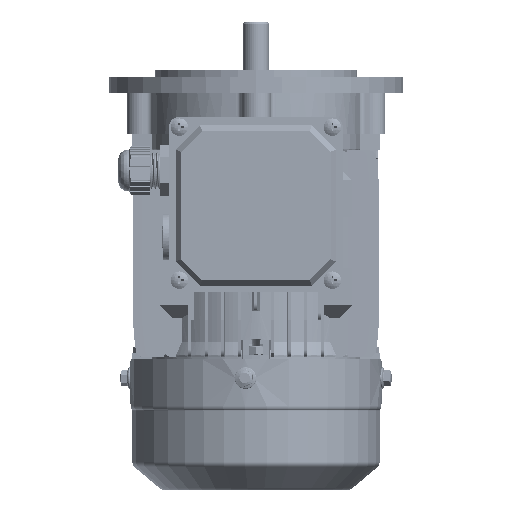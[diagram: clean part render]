
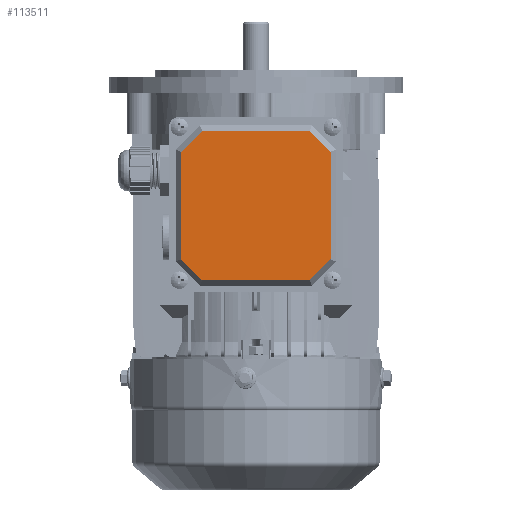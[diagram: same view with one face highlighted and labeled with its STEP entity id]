
A CAD part, left-side view. The second image highlights one B-rep face of the part: STEP entity #113511.
In plain terms, the highlighted planar face has unit normal (-1, 0, 0) as drawn and (0, 1, 0) by its records, which use the part's own axes.
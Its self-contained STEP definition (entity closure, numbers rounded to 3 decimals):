
#122 = VECTOR ( 'NONE', #10892, 1000. ) ;
#4140 = LINE ( 'NONE', #49739, #117571 ) ;
#7776 = CARTESIAN_POINT ( 'NONE',  ( -40.5, 6., 29.15 ) ) ;
#10784 = EDGE_CURVE ( 'NONE', #131015, #55515, #119590, .T. ) ;
#10892 = DIRECTION ( 'NONE',  ( -0.707, 0., 0.707 ) ) ;
#11312 = CARTESIAN_POINT ( 'NONE',  ( -40.5, 6., -29.15 ) ) ;
#13024 = ORIENTED_EDGE ( 'NONE', *, *, #23481, .T. ) ;
#14116 = AXIS2_PLACEMENT_3D ( 'NONE', #48377, #120814, #58793 ) ;
#17447 = CARTESIAN_POINT ( 'NONE',  ( 40.5, 6., 0. ) ) ;
#19912 = VERTEX_POINT ( 'NONE', #7776 ) ;
#21022 = FACE_OUTER_BOUND ( 'NONE', #93811, .T. ) ;
#23481 = EDGE_CURVE ( 'NONE', #19912, #33834, #106680, .T. ) ;
#27676 = LINE ( 'NONE', #124506, #122 ) ;
#33493 = CARTESIAN_POINT ( 'NONE',  ( 34.825, 6., 34.825 ) ) ;
#33834 = VERTEX_POINT ( 'NONE', #83441 ) ;
#34983 = EDGE_CURVE ( 'NONE', #124451, #19912, #67164, .T. ) ;
#35720 = VERTEX_POINT ( 'NONE', #66799 ) ;
#37726 = EDGE_CURVE ( 'NONE', #109099, #124451, #27676, .T. ) ;
#39855 = VECTOR ( 'NONE', #67672, 1000. ) ;
#40189 = VECTOR ( 'NONE', #89838, 1000. ) ;
#40809 = LINE ( 'NONE', #33493, #92593 ) ;
#40818 = CARTESIAN_POINT ( 'NONE',  ( -34.825, 6., 34.825 ) ) ;
#43928 = DIRECTION ( 'NONE',  ( 0.707, 0., -0.707 ) ) ;
#45677 = LINE ( 'NONE', #79766, #100666 ) ;
#48190 = CARTESIAN_POINT ( 'NONE',  ( 29.15, 6., -40.5 ) ) ;
#48377 = CARTESIAN_POINT ( 'NONE',  ( 0., 6., 0. ) ) ;
#49739 = CARTESIAN_POINT ( 'NONE',  ( 0., 6., 40.5 ) ) ;
#50703 = CARTESIAN_POINT ( 'NONE',  ( 40.5, 6., 29.15 ) ) ;
#55515 = VERTEX_POINT ( 'NONE', #71843 ) ;
#58793 = DIRECTION ( 'NONE',  ( 0., 0., -1. ) ) ;
#62099 = EDGE_CURVE ( 'NONE', #35720, #131015, #40809, .T. ) ;
#64315 = DIRECTION ( 'NONE',  ( 0., 0., 1. ) ) ;
#66799 = CARTESIAN_POINT ( 'NONE',  ( 29.15, 6., 40.5 ) ) ;
#67164 = LINE ( 'NONE', #105976, #91444 ) ;
#67409 = LINE ( 'NONE', #119317, #39855 ) ;
#67672 = DIRECTION ( 'NONE',  ( -1., 0., 0. ) ) ;
#67686 = ORIENTED_EDGE ( 'NONE', *, *, #34983, .T. ) ;
#69346 = DIRECTION ( 'NONE',  ( -0.707, 0., -0.707 ) ) ;
#71843 = CARTESIAN_POINT ( 'NONE',  ( 40.5, 6., -29.15 ) ) ;
#79766 = CARTESIAN_POINT ( 'NONE',  ( 34.825, 6., -34.825 ) ) ;
#83441 = CARTESIAN_POINT ( 'NONE',  ( -29.15, 6., 40.5 ) ) ;
#88591 = VERTEX_POINT ( 'NONE', #48190 ) ;
#89838 = DIRECTION ( 'NONE',  ( 0., 0., -1. ) ) ;
#90310 = ORIENTED_EDGE ( 'NONE', *, *, #117087, .T. ) ;
#91444 = VECTOR ( 'NONE', #64315, 1000. ) ;
#92383 = DIRECTION ( 'NONE',  ( 0.707, 0., 0.707 ) ) ;
#92593 = VECTOR ( 'NONE', #43928, 1000. ) ;
#93811 = EDGE_LOOP ( 'NONE', ( #97510, #108754, #131806, #90310, #133112, #67686, #13024, #112133 ) ) ;
#95398 = CARTESIAN_POINT ( 'NONE',  ( -29.15, 6., -40.5 ) ) ;
#97510 = ORIENTED_EDGE ( 'NONE', *, *, #62099, .T. ) ;
#99603 = EDGE_CURVE ( 'NONE', #33834, #35720, #4140, .T. ) ;
#99965 = PLANE ( 'NONE',  #14116 ) ;
#100666 = VECTOR ( 'NONE', #69346, 1000. ) ;
#105976 = CARTESIAN_POINT ( 'NONE',  ( -40.5, 6., 0. ) ) ;
#106680 = LINE ( 'NONE', #40818, #113145 ) ;
#108754 = ORIENTED_EDGE ( 'NONE', *, *, #10784, .T. ) ;
#109099 = VERTEX_POINT ( 'NONE', #95398 ) ;
#112133 = ORIENTED_EDGE ( 'NONE', *, *, #99603, .T. ) ;
#113145 = VECTOR ( 'NONE', #92383, 1000. ) ;
#113511 = ADVANCED_FACE ( 'NONE', ( #21022 ), #99965, .F. ) ;
#117087 = EDGE_CURVE ( 'NONE', #88591, #109099, #67409, .T. ) ;
#117571 = VECTOR ( 'NONE', #122205, 1000. ) ;
#119317 = CARTESIAN_POINT ( 'NONE',  ( 0., 6., -40.5 ) ) ;
#119590 = LINE ( 'NONE', #17447, #40189 ) ;
#120814 = DIRECTION ( 'NONE',  ( 0., -1., 0. ) ) ;
#122205 = DIRECTION ( 'NONE',  ( 1., 0., 0. ) ) ;
#124451 = VERTEX_POINT ( 'NONE', #11312 ) ;
#124506 = CARTESIAN_POINT ( 'NONE',  ( -34.825, 6., -34.825 ) ) ;
#131015 = VERTEX_POINT ( 'NONE', #50703 ) ;
#131806 = ORIENTED_EDGE ( 'NONE', *, *, #133721, .T. ) ;
#133112 = ORIENTED_EDGE ( 'NONE', *, *, #37726, .T. ) ;
#133721 = EDGE_CURVE ( 'NONE', #55515, #88591, #45677, .T. ) ;
